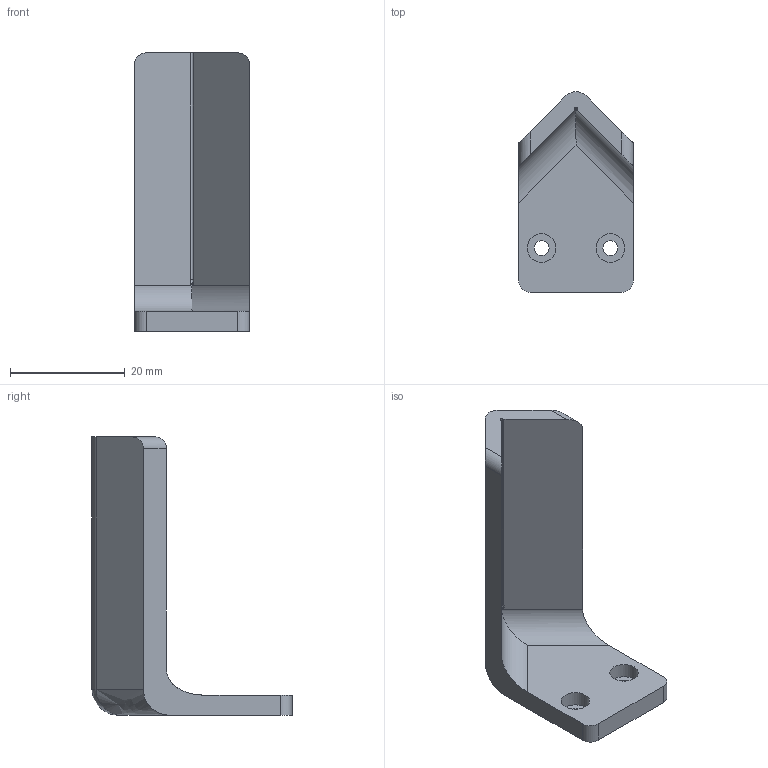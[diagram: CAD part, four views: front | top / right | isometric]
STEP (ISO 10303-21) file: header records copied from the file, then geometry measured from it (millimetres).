
FILE_DESCRIPTION(/* description */ (''),/* implementation_level */ '2;1');
FILE_NAME(/* name */ 'ORA Pointed Jaw Small.step',/* time_stamp */ '2024-09-26T15:30:53-07:00',/* author */ (''),/* organization */ (''),/* preprocessor_version */ 'ST-DEVELOPER v20',/* originating_system */ 'Autodesk Translation Framework v13.20.0.188',/* authorisation */ '');
FILE_SCHEMA (('AUTOMOTIVE_DESIGN { 1 0 10303 214 3 1 1 }'));
Length unit declared in the file: millimetre
Products named in the file (1): Gripper Lite Alternate Jaw
Bounding box: 20 x 34.85 x 48.5 mm (x, y, z)
Volume: 5603.1 mm3; surface area: 4418.4 mm2
Topology: 1 solids, 1 shells, 32 faces, 78 edges, 50 vertices
Faces by surface type: cylinder 14, plane 12, bspline 5, torus 1
Full cylindrical faces by diameter (mm): 2.6 x2, 5 x2
Entity records: 1222 total; most frequent: CARTESIAN_POINT 410, DIRECTION 161, ORIENTED_EDGE 156, EDGE_CURVE 78, AXIS2_PLACEMENT_3D 60, VERTEX_POINT 50, LINE 41, VECTOR 41
